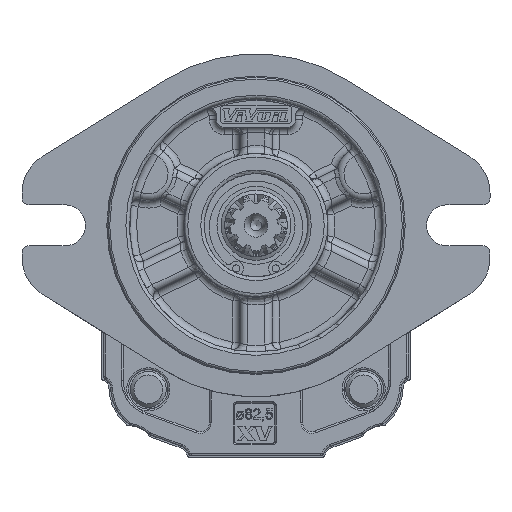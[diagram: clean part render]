
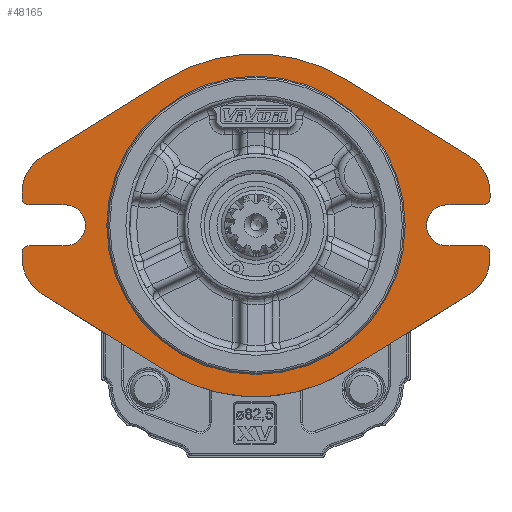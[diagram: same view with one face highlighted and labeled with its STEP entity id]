
A CAD part, front view. The second image highlights one B-rep face of the part: STEP entity #48165.
In plain terms, the highlighted planar face has unit normal (0, -1, 0).
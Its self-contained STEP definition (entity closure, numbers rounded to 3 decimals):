
#2848=LINE('',#68068,#4941);
#2852=LINE('',#68080,#4945);
#2853=LINE('',#68082,#4946);
#2860=LINE('',#68101,#4953);
#2861=LINE('',#68103,#4954);
#2868=LINE('',#68132,#4961);
#2869=LINE('',#68137,#4962);
#2870=LINE('',#68141,#4963);
#2871=LINE('',#68144,#4964);
#2872=LINE('',#68148,#4965);
#2873=LINE('',#68152,#4966);
#2874=LINE('',#68156,#4967);
#4941=VECTOR('',#55505,1000.);
#4945=VECTOR('',#55517,1000.);
#4946=VECTOR('',#55520,1000.);
#4953=VECTOR('',#55535,1000.);
#4954=VECTOR('',#55538,1000.);
#4961=VECTOR('',#55567,1000.);
#4962=VECTOR('',#55570,1000.);
#4963=VECTOR('',#55573,1000.);
#4964=VECTOR('',#55578,1000.);
#4965=VECTOR('',#55581,1000.);
#4966=VECTOR('',#55584,1000.);
#4967=VECTOR('',#55587,1000.);
#6683=PLANE('',#50714);
#10219=ORIENTED_EDGE('',*,*,#19532,.T.);
#10220=ORIENTED_EDGE('',*,*,#19533,.F.);
#10221=ORIENTED_EDGE('',*,*,#19534,.T.);
#10222=ORIENTED_EDGE('',*,*,#19535,.F.);
#10223=ORIENTED_EDGE('',*,*,#19536,.F.);
#10224=ORIENTED_EDGE('',*,*,#19537,.F.);
#10225=ORIENTED_EDGE('',*,*,#19453,.F.);
#10226=ORIENTED_EDGE('',*,*,#19502,.F.);
#10227=ORIENTED_EDGE('',*,*,#19505,.F.);
#10228=ORIENTED_EDGE('',*,*,#19508,.F.);
#10229=ORIENTED_EDGE('',*,*,#19538,.T.);
#10230=ORIENTED_EDGE('',*,*,#19509,.F.);
#10231=ORIENTED_EDGE('',*,*,#19515,.F.);
#10232=ORIENTED_EDGE('',*,*,#19518,.F.);
#10233=ORIENTED_EDGE('',*,*,#19539,.T.);
#10234=ORIENTED_EDGE('',*,*,#19519,.F.);
#10235=ORIENTED_EDGE('',*,*,#19531,.F.);
#10236=ORIENTED_EDGE('',*,*,#19540,.F.);
#10237=ORIENTED_EDGE('',*,*,#19541,.F.);
#10238=ORIENTED_EDGE('',*,*,#19542,.F.);
#10239=ORIENTED_EDGE('',*,*,#19543,.F.);
#10240=ORIENTED_EDGE('',*,*,#19544,.F.);
#10241=ORIENTED_EDGE('',*,*,#19545,.T.);
#10242=ORIENTED_EDGE('',*,*,#19546,.F.);
#10243=ORIENTED_EDGE('',*,*,#19547,.F.);
#19453=EDGE_CURVE('',#24257,#24258,#27031,.T.);
#19502=EDGE_CURVE('',#24300,#24257,#2848,.T.);
#19505=EDGE_CURVE('',#24302,#24300,#27059,.T.);
#19508=EDGE_CURVE('',#24304,#24302,#2852,.T.);
#19509=EDGE_CURVE('',#24305,#24306,#2853,.T.);
#19515=EDGE_CURVE('',#24310,#24305,#27061,.T.);
#19518=EDGE_CURVE('',#24312,#24310,#2860,.T.);
#19519=EDGE_CURVE('',#24313,#24314,#2861,.T.);
#19531=EDGE_CURVE('',#24322,#24313,#27067,.T.);
#19532=EDGE_CURVE('',#24323,#24323,#27068,.T.);
#19533=EDGE_CURVE('',#24324,#24325,#2868,.T.);
#19534=EDGE_CURVE('',#24324,#24326,#27069,.F.);
#19535=EDGE_CURVE('',#24327,#24326,#2869,.T.);
#19536=EDGE_CURVE('',#24328,#24327,#27070,.T.);
#19537=EDGE_CURVE('',#24258,#24328,#2870,.T.);
#19538=EDGE_CURVE('',#24304,#24306,#27071,.F.);
#19539=EDGE_CURVE('',#24312,#24314,#27072,.F.);
#19540=EDGE_CURVE('',#24329,#24322,#2871,.T.);
#19541=EDGE_CURVE('',#24330,#24329,#27073,.T.);
#19542=EDGE_CURVE('',#24331,#24330,#2872,.T.);
#19543=EDGE_CURVE('',#24332,#24331,#27074,.T.);
#19544=EDGE_CURVE('',#24333,#24332,#2873,.T.);
#19545=EDGE_CURVE('',#24333,#24334,#27075,.F.);
#19546=EDGE_CURVE('',#24335,#24334,#2874,.T.);
#19547=EDGE_CURVE('',#24325,#24335,#27076,.T.);
#24257=VERTEX_POINT('',#67943);
#24258=VERTEX_POINT('',#67945);
#24300=VERTEX_POINT('',#68067);
#24302=VERTEX_POINT('',#68073);
#24304=VERTEX_POINT('',#68079);
#24305=VERTEX_POINT('',#68083);
#24306=VERTEX_POINT('',#68084);
#24310=VERTEX_POINT('',#68094);
#24312=VERTEX_POINT('',#68100);
#24313=VERTEX_POINT('',#68104);
#24314=VERTEX_POINT('',#68105);
#24322=VERTEX_POINT('',#68127);
#24323=VERTEX_POINT('',#68131);
#24324=VERTEX_POINT('',#68133);
#24325=VERTEX_POINT('',#68134);
#24326=VERTEX_POINT('',#68136);
#24327=VERTEX_POINT('',#68138);
#24328=VERTEX_POINT('',#68140);
#24329=VERTEX_POINT('',#68145);
#24330=VERTEX_POINT('',#68147);
#24331=VERTEX_POINT('',#68149);
#24332=VERTEX_POINT('',#68151);
#24333=VERTEX_POINT('',#68153);
#24334=VERTEX_POINT('',#68155);
#24335=VERTEX_POINT('',#68157);
#27031=CIRCLE('',#50663,47.75);
#27059=CIRCLE('',#50697,12.);
#27061=CIRCLE('',#50702,5.7);
#27067=CIRCLE('',#50713,12.);
#27068=CIRCLE('',#50715,40.982);
#27069=CIRCLE('',#50716,2.);
#27070=CIRCLE('',#50717,12.);
#27071=CIRCLE('',#50718,2.);
#27072=CIRCLE('',#50719,2.);
#27073=CIRCLE('',#50720,47.75);
#27074=CIRCLE('',#50721,12.);
#27075=CIRCLE('',#50722,2.);
#27076=CIRCLE('',#50723,5.7);
#28859=EDGE_LOOP('',(#10219));
#28860=EDGE_LOOP('',(#10220,#10221,#10222,#10223,#10224,#10225,#10226,#10227,
#10228,#10229,#10230,#10231,#10232,#10233,#10234,#10235,#10236,#10237,#10238,
#10239,#10240,#10241,#10242,#10243));
#31231=FACE_BOUND('',#28859,.T.);
#31232=FACE_BOUND('',#28860,.T.);
#48165=ADVANCED_FACE('',(#31231,#31232),#6683,.F.);
#50663=AXIS2_PLACEMENT_3D('',#67944,#55421,#55422);
#50697=AXIS2_PLACEMENT_3D('',#68074,#55511,#55512);
#50702=AXIS2_PLACEMENT_3D('',#68095,#55529,#55530);
#50713=AXIS2_PLACEMENT_3D('',#68128,#55561,#55562);
#50714=AXIS2_PLACEMENT_3D('',#68129,#55563,#55564);
#50715=AXIS2_PLACEMENT_3D('',#68130,#55565,#55566);
#50716=AXIS2_PLACEMENT_3D('',#68135,#55568,#55569);
#50717=AXIS2_PLACEMENT_3D('',#68139,#55571,#55572);
#50718=AXIS2_PLACEMENT_3D('',#68142,#55574,#55575);
#50719=AXIS2_PLACEMENT_3D('',#68143,#55576,#55577);
#50720=AXIS2_PLACEMENT_3D('',#68146,#55579,#55580);
#50721=AXIS2_PLACEMENT_3D('',#68150,#55582,#55583);
#50722=AXIS2_PLACEMENT_3D('',#68154,#55585,#55586);
#50723=AXIS2_PLACEMENT_3D('',#68158,#55588,#55589);
#55421=DIRECTION('',(0.,1.,0.));
#55422=DIRECTION('',(-1.,0.,0.));
#55505=DIRECTION('',(-0.849,0.,-0.528));
#55511=DIRECTION('',(0.,1.,0.));
#55512=DIRECTION('',(-1.,0.,0.));
#55517=DIRECTION('',(0.,0.,-1.));
#55520=DIRECTION('',(1.,0.,0.));
#55529=DIRECTION('',(0.,-1.,0.));
#55530=DIRECTION('',(1.,0.,0.));
#55535=DIRECTION('',(-1.,0.,0.));
#55538=DIRECTION('',(0.,0.,-1.));
#55561=DIRECTION('',(0.,1.,0.));
#55562=DIRECTION('',(-1.,0.,0.));
#55563=DIRECTION('',(0.,1.,0.));
#55564=DIRECTION('',(0.,0.,-1.));
#55565=DIRECTION('',(0.,1.,0.));
#55566=DIRECTION('',(-1.,0.,0.));
#55567=DIRECTION('',(1.,0.,0.));
#55568=DIRECTION('',(0.,1.,0.));
#55569=DIRECTION('',(0.,0.,-1.));
#55570=DIRECTION('',(0.,0.,1.));
#55571=DIRECTION('',(0.,1.,0.));
#55572=DIRECTION('',(1.,0.,0.));
#55573=DIRECTION('',(-0.849,0.,0.528));
#55574=DIRECTION('',(0.,1.,0.));
#55575=DIRECTION('',(0.,0.,-1.));
#55576=DIRECTION('',(0.,1.,0.));
#55577=DIRECTION('',(0.,0.,-1.));
#55578=DIRECTION('',(0.849,0.,-0.528));
#55579=DIRECTION('',(0.,1.,0.));
#55580=DIRECTION('',(-1.,0.,0.));
#55581=DIRECTION('',(0.849,0.,0.528));
#55582=DIRECTION('',(0.,1.,0.));
#55583=DIRECTION('',(1.,0.,0.));
#55584=DIRECTION('',(0.,0.,1.));
#55585=DIRECTION('',(0.,1.,0.));
#55586=DIRECTION('',(0.,0.,-1.));
#55587=DIRECTION('',(-1.,0.,0.));
#55588=DIRECTION('',(0.,-1.,0.));
#55589=DIRECTION('',(-1.,0.,0.));
#67943=CARTESIAN_POINT('',(25.235,-19.,-24.837));
#67944=CARTESIAN_POINT('',(0.,-19.,15.7));
#67945=CARTESIAN_POINT('',(-25.235,-19.,-24.837));
#68067=CARTESIAN_POINT('',(59.532,-19.,-3.487));
#68068=CARTESIAN_POINT('',(59.532,-19.,-3.487));
#68073=CARTESIAN_POINT('',(65.19,-19.,6.7));
#68074=CARTESIAN_POINT('',(53.19,-19.,6.7));
#68079=CARTESIAN_POINT('',(65.19,-19.,8.));
#68080=CARTESIAN_POINT('',(65.19,-19.,6.7));
#68082=CARTESIAN_POINT('',(53.19,-19.,10.));
#68083=CARTESIAN_POINT('',(53.19,-19.,10.));
#68084=CARTESIAN_POINT('',(63.19,-19.,10.));
#68094=CARTESIAN_POINT('',(53.19,-19.,21.4));
#68095=CARTESIAN_POINT('',(53.19,-19.,15.7));
#68100=CARTESIAN_POINT('',(63.19,-19.,21.4));
#68101=CARTESIAN_POINT('',(53.19,-19.,21.4));
#68103=CARTESIAN_POINT('',(65.19,-19.,24.7));
#68104=CARTESIAN_POINT('',(65.19,-19.,24.7));
#68105=CARTESIAN_POINT('',(65.19,-19.,23.4));
#68127=CARTESIAN_POINT('',(59.532,-19.,34.887));
#68128=CARTESIAN_POINT('',(53.19,-19.,24.7));
#68129=CARTESIAN_POINT('',(0.,-19.,15.7));
#68130=CARTESIAN_POINT('',(0.,-19.,15.7));
#68131=CARTESIAN_POINT('',(-40.982,-19.,15.7));
#68132=CARTESIAN_POINT('',(-53.19,-19.,10.));
#68133=CARTESIAN_POINT('',(-63.19,-19.,10.));
#68134=CARTESIAN_POINT('',(-53.19,-19.,10.));
#68135=CARTESIAN_POINT('',(-63.19,-19.,8.));
#68136=CARTESIAN_POINT('',(-65.19,-19.,8.));
#68137=CARTESIAN_POINT('',(-65.19,-19.,6.7));
#68138=CARTESIAN_POINT('',(-65.19,-19.,6.7));
#68139=CARTESIAN_POINT('',(-53.19,-19.,6.7));
#68140=CARTESIAN_POINT('',(-59.532,-19.,-3.487));
#68141=CARTESIAN_POINT('',(-59.532,-19.,-3.487));
#68142=CARTESIAN_POINT('',(63.19,-19.,8.));
#68143=CARTESIAN_POINT('',(63.19,-19.,23.4));
#68144=CARTESIAN_POINT('',(25.235,-19.,56.237));
#68145=CARTESIAN_POINT('',(25.235,-19.,56.237));
#68146=CARTESIAN_POINT('',(0.,-19.,15.7));
#68147=CARTESIAN_POINT('',(-25.235,-19.,56.237));
#68148=CARTESIAN_POINT('',(-25.235,-19.,56.237));
#68149=CARTESIAN_POINT('',(-59.532,-19.,34.887));
#68150=CARTESIAN_POINT('',(-53.19,-19.,24.7));
#68151=CARTESIAN_POINT('',(-65.19,-19.,24.7));
#68152=CARTESIAN_POINT('',(-65.19,-19.,24.7));
#68153=CARTESIAN_POINT('',(-65.19,-19.,23.4));
#68154=CARTESIAN_POINT('',(-63.19,-19.,23.4));
#68155=CARTESIAN_POINT('',(-63.19,-19.,21.4));
#68156=CARTESIAN_POINT('',(-53.19,-19.,21.4));
#68157=CARTESIAN_POINT('',(-53.19,-19.,21.4));
#68158=CARTESIAN_POINT('',(-53.19,-19.,15.7));
